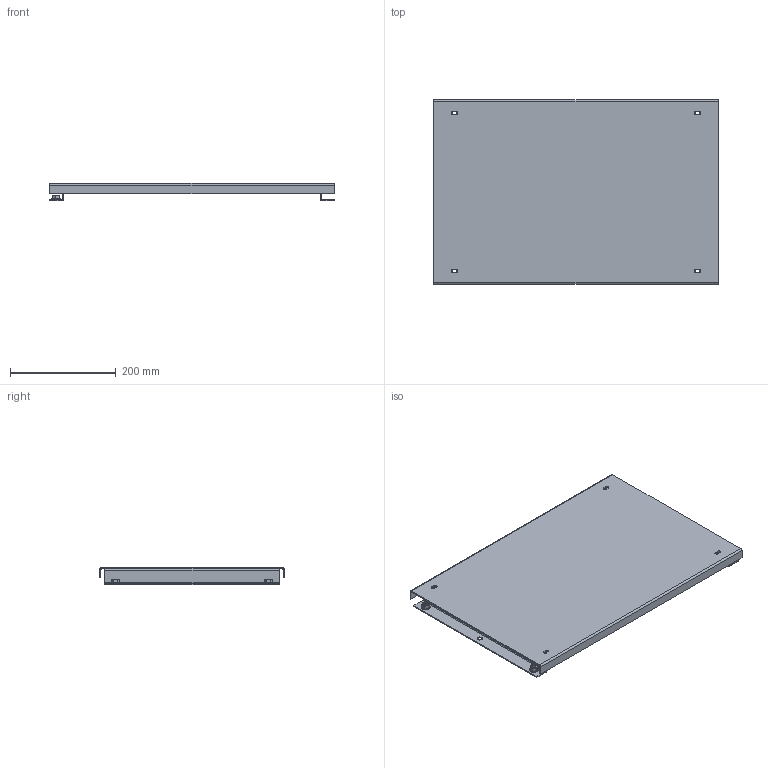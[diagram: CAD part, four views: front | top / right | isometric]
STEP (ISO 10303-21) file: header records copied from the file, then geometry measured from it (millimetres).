
FILE_DESCRIPTION (( 'STEP AP203' ), '1' );
FILE_NAME ('PA4-LE015.STEP', '2018-07-02T14:38:49', ( '' ), ( '' ), 'SwSTEP 2.0', 'SolidWorks 2017', '' );
FILE_SCHEMA (( 'CONFIG_CONTROL_DESIGN' ));
Length unit declared in the file: millimetre
Products named in the file (4): Piegatura_piastra_interna_LE_0600; Traversa_laterale_PE_Prof.500; PA4-LE015; dado_flangiato_M8
Assembly tree (5 placements, depth 2):
  PA4-LE015
    Piegatura_piastra_interna_LE_0600
    Traversa_laterale_PE_Prof.500  x2
    dado_flangiato_M8  x2
Bounding box: 540 x 350 x 32.5 mm (x, y, z)
Volume: 616293.5 mm3; surface area: 523576.5 mm2
Topology: 5 solids, 5 shells, 276 faces, 720 edges, 454 vertices
Faces by surface type: plane 206, cylinder 44, cone 26
Entity records: 5409 total; most frequent: CARTESIAN_POINT 948, ORIENTED_EDGE 824, DIRECTION 799, EDGE_CURVE 412, LINE 323, VECTOR 323, VERTEX_POINT 259, AXIS2_PLACEMENT_3D 238
